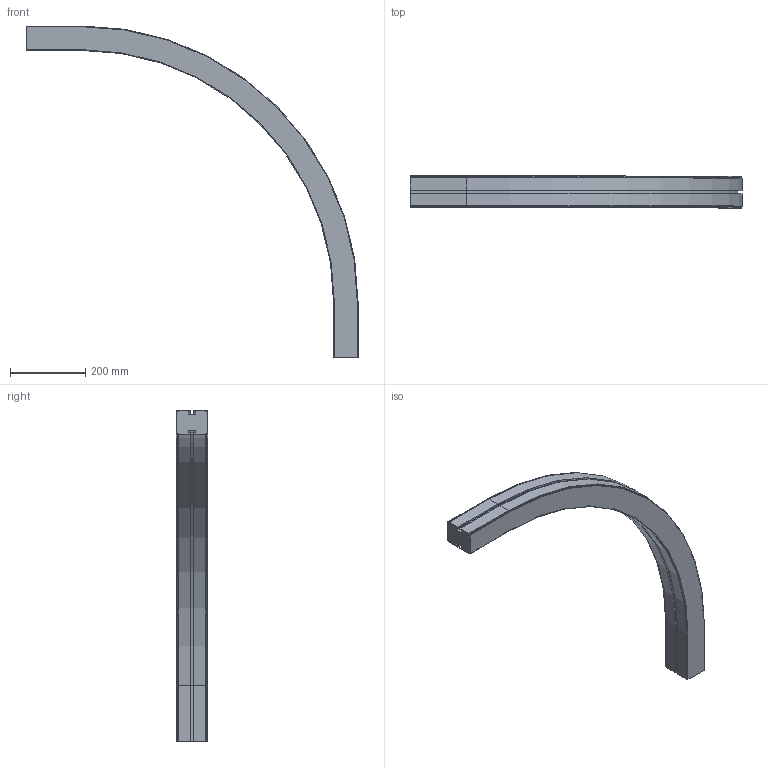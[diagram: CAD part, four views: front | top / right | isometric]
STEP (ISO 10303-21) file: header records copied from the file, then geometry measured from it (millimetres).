
FILE_DESCRIPTION (( 'STEP AP214' ), '1' );
FILE_NAME ('CS SL Horizontaalbocht.65 90° R700.STEP', '2017-02-08T07:35:29', ( '' ), ( '' ), 'SwSTEP 2.0', 'SolidWorks 2016', '' );
FILE_SCHEMA (( 'AUTOMOTIVE_DESIGN' ));
Length unit declared in the file: millimetre
Products named in the file (1): CS SL Horizontaalbocht.65 90° R700
Bounding box: 882.5 x 84 x 882.5 mm (x, y, z)
Volume: 7074245 mm3; surface area: 575474.2 mm2
Topology: 1 solids, 1 shells, 98 faces, 272 edges, 176 vertices
Faces by surface type: plane 72, cylinder 18, cone 8
Entity records: 3126 total; most frequent: CARTESIAN_POINT 547, ORIENTED_EDGE 544, DIRECTION 514, EDGE_CURVE 272, LINE 228, VECTOR 228, VERTEX_POINT 176, AXIS2_PLACEMENT_3D 143
